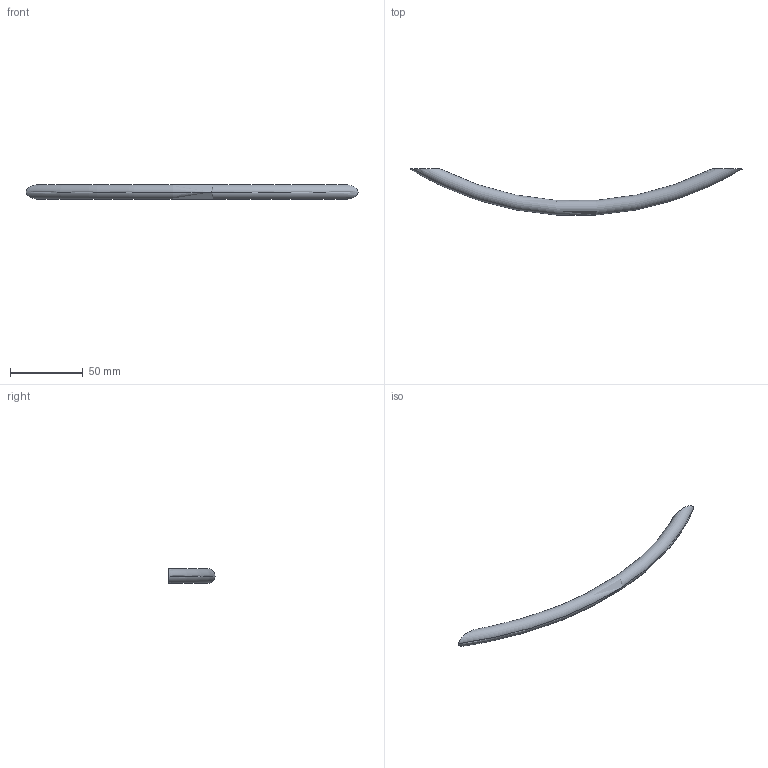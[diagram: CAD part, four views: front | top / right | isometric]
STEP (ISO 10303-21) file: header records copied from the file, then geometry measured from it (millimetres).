
FILE_DESCRIPTION( ( '' ), '1' );
FILE_NAME( 'D:/1.AUTOCAD EXPORT/Group 10/sheet_10_1/ 9070457.stp', '2013-10-22T03:14:25', ( '' ), ( '' ), ' ', ' ', ' ' );
FILE_SCHEMA( ( 'automotive_design' ) );
Length unit declared in the file: millimetre
Products named in the file (1): 1
Bounding box: 228 x 31.6 x 10 mm (x, y, z)
Volume: 16909.4 mm3; surface area: 7293.6 mm2
Topology: 1 solids, 1 shells, 10 faces, 18 edges, 12 vertices
Faces by surface type: cylinder 4, plane 4, torus 2
Entity records: 718 total; most frequent: CARTESIAN_POINT 261, DIRECTION 46, STYLED_ITEM 41, PRESENTATION_STYLE_ASSIGNMENT 41, COLOUR_RGB 41, ORIENTED_EDGE 36, AXIS2_PLACEMENT_3D 21, EDGE_CURVE 18
